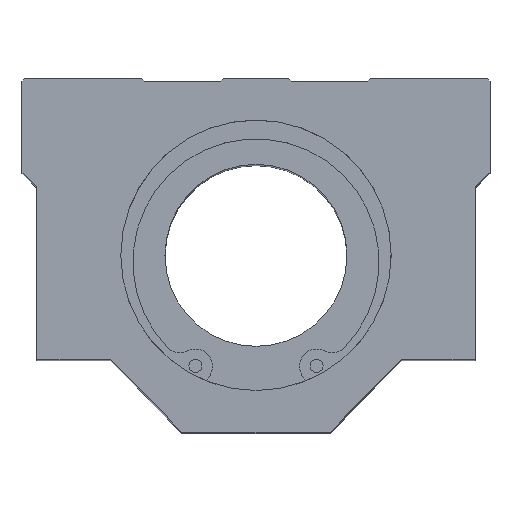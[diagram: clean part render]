
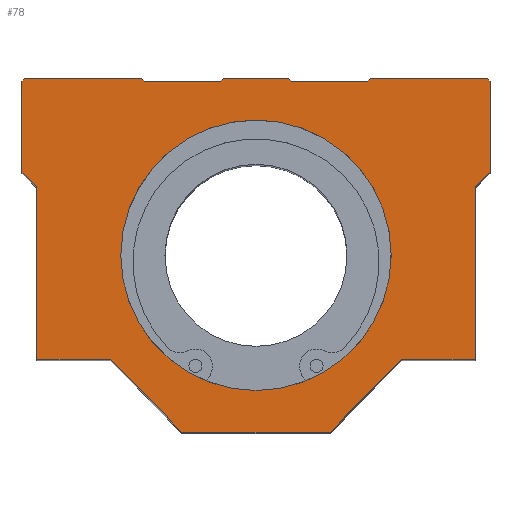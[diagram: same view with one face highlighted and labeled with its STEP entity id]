
A CAD part, top view. The second image highlights one B-rep face of the part: STEP entity #78.
In plain terms, the highlighted planar face has unit normal (0, 0, 1).
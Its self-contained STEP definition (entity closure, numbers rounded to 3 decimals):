
#78=ADVANCED_FACE('',(#147,#148),#149,.F.);
#147=FACE_OUTER_BOUND('',#308,.T.);
#148=FACE_BOUND('',#309,.T.);
#149=PLANE('',#310);
#308=EDGE_LOOP('',(#484,#485,#486,#487,#488,#489,#490,#491,#492,#493,#494,#495,#496,#497,#498,#499,#500,#501,#502,#503,#504,#505));
#309=EDGE_LOOP('',(#506));
#310=AXIS2_PLACEMENT_3D('',#507,#508,#509);
#484=ORIENTED_EDGE('',*,*,#968,.F.);
#485=ORIENTED_EDGE('',*,*,#969,.F.);
#486=ORIENTED_EDGE('',*,*,#970,.F.);
#487=ORIENTED_EDGE('',*,*,#971,.F.);
#488=ORIENTED_EDGE('',*,*,#972,.F.);
#489=ORIENTED_EDGE('',*,*,#973,.F.);
#490=ORIENTED_EDGE('',*,*,#974,.F.);
#491=ORIENTED_EDGE('',*,*,#975,.F.);
#492=ORIENTED_EDGE('',*,*,#976,.F.);
#493=ORIENTED_EDGE('',*,*,#977,.F.);
#494=ORIENTED_EDGE('',*,*,#978,.F.);
#495=ORIENTED_EDGE('',*,*,#979,.F.);
#496=ORIENTED_EDGE('',*,*,#980,.F.);
#497=ORIENTED_EDGE('',*,*,#981,.F.);
#498=ORIENTED_EDGE('',*,*,#982,.F.);
#499=ORIENTED_EDGE('',*,*,#983,.F.);
#500=ORIENTED_EDGE('',*,*,#984,.F.);
#501=ORIENTED_EDGE('',*,*,#985,.F.);
#502=ORIENTED_EDGE('',*,*,#986,.F.);
#503=ORIENTED_EDGE('',*,*,#987,.F.);
#504=ORIENTED_EDGE('',*,*,#988,.F.);
#505=ORIENTED_EDGE('',*,*,#989,.F.);
#506=ORIENTED_EDGE('',*,*,#990,.F.);
#507=CARTESIAN_POINT('',(-33.25,45.25,77.5));
#508=DIRECTION('',(0.0,0.0,-1.0));
#509=DIRECTION('',(0.0,1.0,0.0));
#968=EDGE_CURVE('',#1126,#1127,#1128,.T.);
#969=EDGE_CURVE('',#1129,#1126,#1130,.T.);
#970=EDGE_CURVE('',#1131,#1129,#1132,.T.);
#971=EDGE_CURVE('',#1133,#1131,#1134,.T.);
#972=EDGE_CURVE('',#1135,#1133,#1136,.T.);
#973=EDGE_CURVE('',#1137,#1135,#1138,.T.);
#974=EDGE_CURVE('',#1139,#1137,#1140,.T.);
#975=EDGE_CURVE('',#1141,#1139,#1142,.T.);
#976=EDGE_CURVE('',#1143,#1141,#1144,.T.);
#977=EDGE_CURVE('',#1145,#1143,#1146,.T.);
#978=EDGE_CURVE('',#1147,#1145,#1148,.T.);
#979=EDGE_CURVE('',#1149,#1147,#1150,.T.);
#980=EDGE_CURVE('',#1151,#1149,#1152,.T.);
#981=EDGE_CURVE('',#1153,#1151,#1154,.T.);
#982=EDGE_CURVE('',#1155,#1153,#1156,.T.);
#983=EDGE_CURVE('',#1157,#1155,#1158,.T.);
#984=EDGE_CURVE('',#1159,#1157,#1160,.T.);
#985=EDGE_CURVE('',#1161,#1159,#1162,.T.);
#986=EDGE_CURVE('',#1163,#1161,#1164,.T.);
#987=EDGE_CURVE('',#1165,#1163,#1166,.T.);
#988=EDGE_CURVE('',#1167,#1165,#1168,.T.);
#989=EDGE_CURVE('',#1127,#1167,#1169,.T.);
#990=EDGE_CURVE('',#1170,#1170,#1171,.F.);
#1126=VERTEX_POINT('',#1388);
#1127=VERTEX_POINT('',#1389);
#1128=LINE('',#1390,#1391);
#1129=VERTEX_POINT('',#1392);
#1130=LINE('',#1393,#1394);
#1131=VERTEX_POINT('',#1395);
#1132=LINE('',#1396,#1397);
#1133=VERTEX_POINT('',#1398);
#1134=LINE('',#1399,#1400);
#1135=VERTEX_POINT('',#1401);
#1136=LINE('',#1402,#1403);
#1137=VERTEX_POINT('',#1404);
#1138=LINE('',#1405,#1406);
#1139=VERTEX_POINT('',#1407);
#1140=LINE('',#1408,#1409);
#1141=VERTEX_POINT('',#1410);
#1142=LINE('',#1411,#1412);
#1143=VERTEX_POINT('',#1413);
#1144=LINE('',#1414,#1415);
#1145=VERTEX_POINT('',#1416);
#1146=LINE('',#1417,#1418);
#1147=VERTEX_POINT('',#1419);
#1148=LINE('',#1420,#1421);
#1149=VERTEX_POINT('',#1422);
#1150=LINE('',#1423,#1424);
#1151=VERTEX_POINT('',#1425);
#1152=LINE('',#1426,#1427);
#1153=VERTEX_POINT('',#1428);
#1154=LINE('',#1429,#1430);
#1155=VERTEX_POINT('',#1431);
#1156=LINE('',#1432,#1433);
#1157=VERTEX_POINT('',#1434);
#1158=LINE('',#1435,#1436);
#1159=VERTEX_POINT('',#1437);
#1160=LINE('',#1438,#1439);
#1161=VERTEX_POINT('',#1440);
#1162=LINE('',#1441,#1442);
#1163=VERTEX_POINT('',#1443);
#1164=LINE('',#1444,#1445);
#1165=VERTEX_POINT('',#1446);
#1166=LINE('',#1447,#1448);
#1167=VERTEX_POINT('',#1449);
#1168=LINE('',#1450,#1451);
#1169=LINE('',#1452,#1453);
#1170=VERTEX_POINT('',#1454);
#1171=CIRCLE('',#1455,26.0);
#1388=CARTESIAN_POINT('',(-45.0,33.5,77.5));
#1389=CARTESIAN_POINT('',(-44.5,34.0,77.5));
#1390=CARTESIAN_POINT('',(-45.0,33.5,77.5));
#1391=VECTOR('',#1740,1.0);
#1392=CARTESIAN_POINT('',(-45.0,16.0,77.5));
#1393=CARTESIAN_POINT('',(-45.0,16.0,77.5));
#1394=VECTOR('',#1741,1.0);
#1395=CARTESIAN_POINT('',(-42.15,13.15,77.5));
#1396=CARTESIAN_POINT('',(-42.15,13.15,77.5));
#1397=VECTOR('',#1742,1.0);
#1398=CARTESIAN_POINT('',(-42.15,-20.0,77.5));
#1399=CARTESIAN_POINT('',(-42.15,-20.0,77.5));
#1400=VECTOR('',#1743,1.0);
#1401=CARTESIAN_POINT('',(-28.0,-20.0,77.5));
#1402=CARTESIAN_POINT('',(-28.0,-20.0,77.5));
#1403=VECTOR('',#1744,1.0);
#1404=CARTESIAN_POINT('',(-14.25,-34.0,77.5));
#1405=CARTESIAN_POINT('',(-14.25,-34.0,77.5));
#1406=VECTOR('',#1745,1.0);
#1407=CARTESIAN_POINT('',(14.25,-34.0,77.5));
#1408=CARTESIAN_POINT('',(14.25,-34.0,77.5));
#1409=VECTOR('',#1746,1.0);
#1410=CARTESIAN_POINT('',(28.0,-20.0,77.5));
#1411=CARTESIAN_POINT('',(28.0,-20.0,77.5));
#1412=VECTOR('',#1747,1.0);
#1413=CARTESIAN_POINT('',(42.15,-20.0,77.5));
#1414=CARTESIAN_POINT('',(42.15,-20.0,77.5));
#1415=VECTOR('',#1748,1.0);
#1416=CARTESIAN_POINT('',(42.15,13.15,77.5));
#1417=CARTESIAN_POINT('',(42.15,13.15,77.5));
#1418=VECTOR('',#1749,1.0);
#1419=CARTESIAN_POINT('',(45.0,16.0,77.5));
#1420=CARTESIAN_POINT('',(45.0,16.0,77.5));
#1421=VECTOR('',#1750,1.0);
#1422=CARTESIAN_POINT('',(45.0,33.5,77.5));
#1423=CARTESIAN_POINT('',(45.0,33.5,77.5));
#1424=VECTOR('',#1751,1.0);
#1425=CARTESIAN_POINT('',(44.5,34.0,77.5));
#1426=CARTESIAN_POINT('',(44.5,34.0,77.5));
#1427=VECTOR('',#1752,1.0);
#1428=CARTESIAN_POINT('',(22.0,34.0,77.5));
#1429=CARTESIAN_POINT('',(22.0,34.0,77.5));
#1430=VECTOR('',#1753,1.0);
#1431=CARTESIAN_POINT('',(21.5,33.5,77.5));
#1432=CARTESIAN_POINT('',(21.5,33.5,77.5));
#1433=VECTOR('',#1754,1.0);
#1434=CARTESIAN_POINT('',(6.75,33.5,77.5));
#1435=CARTESIAN_POINT('',(6.75,33.5,77.5));
#1436=VECTOR('',#1755,1.0);
#1437=CARTESIAN_POINT('',(6.25,34.0,77.5));
#1438=CARTESIAN_POINT('',(6.25,34.0,77.5));
#1439=VECTOR('',#1756,1.0);
#1440=CARTESIAN_POINT('',(-6.25,34.0,77.5));
#1441=CARTESIAN_POINT('',(-6.25,34.0,77.5));
#1442=VECTOR('',#1757,1.0);
#1443=CARTESIAN_POINT('',(-6.75,33.5,77.5));
#1444=CARTESIAN_POINT('',(-6.75,33.5,77.5));
#1445=VECTOR('',#1758,1.0);
#1446=CARTESIAN_POINT('',(-21.5,33.5,77.5));
#1447=CARTESIAN_POINT('',(-21.5,33.5,77.5));
#1448=VECTOR('',#1759,1.0);
#1449=CARTESIAN_POINT('',(-22.0,34.0,77.5));
#1450=CARTESIAN_POINT('',(-22.0,34.0,77.5));
#1451=VECTOR('',#1760,1.0);
#1452=CARTESIAN_POINT('',(-44.5,34.0,77.5));
#1453=VECTOR('',#1761,1.0);
#1454=CARTESIAN_POINT('',(-26.0,0.,77.5));
#1455=AXIS2_PLACEMENT_3D('',#1762,#1763,#1764);
#1740=DIRECTION('',(0.707,0.707,0.0));
#1741=DIRECTION('',(0.0,1.0,0.0));
#1742=DIRECTION('',(-0.707,0.707,0.0));
#1743=DIRECTION('',(0.0,1.0,0.0));
#1744=DIRECTION('',(-1.0,0.0,0.0));
#1745=DIRECTION('',(-0.701,0.713,0.0));
#1746=DIRECTION('',(-1.0,0.0,0.0));
#1747=DIRECTION('',(-0.701,-0.713,0.0));
#1748=DIRECTION('',(-1.0,0.0,0.0));
#1749=DIRECTION('',(0.0,-1.0,0.0));
#1750=DIRECTION('',(-0.707,-0.707,0.0));
#1751=DIRECTION('',(0.0,-1.0,0.0));
#1752=DIRECTION('',(0.707,-0.707,0.0));
#1753=DIRECTION('',(1.0,0.0,0.0));
#1754=DIRECTION('',(0.707,0.707,0.0));
#1755=DIRECTION('',(1.0,0.0,0.0));
#1756=DIRECTION('',(0.707,-0.707,0.0));
#1757=DIRECTION('',(1.0,0.0,0.0));
#1758=DIRECTION('',(0.707,0.707,0.0));
#1759=DIRECTION('',(1.0,0.0,0.0));
#1760=DIRECTION('',(0.707,-0.707,0.0));
#1761=DIRECTION('',(1.0,0.0,0.0));
#1762=CARTESIAN_POINT('',(0.,0.0,77.5));
#1763=DIRECTION('',(0.0,0.0,-1.0));
#1764=DIRECTION('',(-1.0,0.0,0.0));
